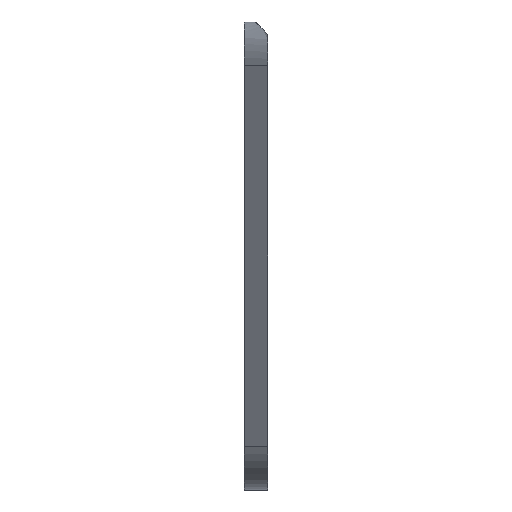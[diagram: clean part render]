
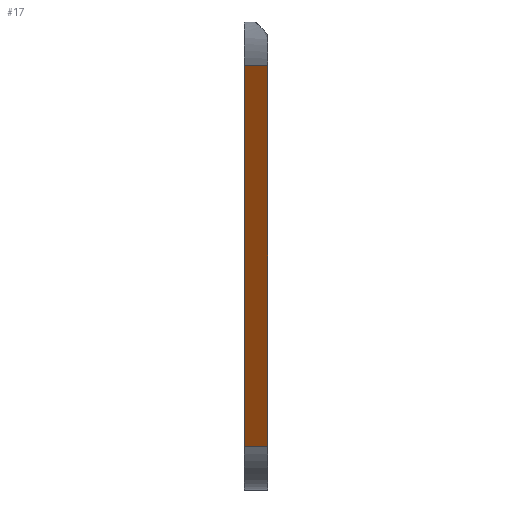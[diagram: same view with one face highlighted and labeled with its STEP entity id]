
A CAD part, front view. The second image highlights one B-rep face of the part: STEP entity #17.
In plain terms, the highlighted planar face has unit normal (-0.673, -0.74, 0).
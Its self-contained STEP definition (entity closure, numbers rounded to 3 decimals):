
#17 = ADVANCED_FACE('',(#18),#32,.T.);
#18 = FACE_BOUND('',#19,.T.);
#19 = EDGE_LOOP('',(#20,#55,#95,#123));
#20 = ORIENTED_EDGE('',*,*,#21,.F.);
#21 = EDGE_CURVE('',#22,#24,#26,.T.);
#22 = VERTEX_POINT('',#23);
#23 = CARTESIAN_POINT('',(129.688,45.5,44.5));
#24 = VERTEX_POINT('',#25);
#25 = CARTESIAN_POINT('',(129.688,45.5,70.7));
#26 = SURFACE_CURVE('',#27,(#31,#43),.PCURVE_S1.);
#27 = LINE('',#28,#29);
#28 = CARTESIAN_POINT('',(129.688,45.5,41.5));
#29 = VECTOR('',#30,1.);
#30 = DIRECTION('',(0.,0.,1.));
#31 = PCURVE('',#32,#37);
#32 = PLANE('',#33);
#33 = AXIS2_PLACEMENT_3D('',#34,#35,#36);
#34 = CARTESIAN_POINT('',(131.338,44.,41.5));
#35 = DIRECTION('',(-0.673,-0.74,0.));
#36 = DIRECTION('',(-0.,0.,-1.));
#37 = DEFINITIONAL_REPRESENTATION('',(#38),#42);
#38 = LINE('',#39,#40);
#39 = CARTESIAN_POINT('',(0.,-2.23));
#40 = VECTOR('',#41,1.);
#41 = DIRECTION('',(-1.,0.));
#42 = ( GEOMETRIC_REPRESENTATION_CONTEXT(2) 
PARAMETRIC_REPRESENTATION_CONTEXT() REPRESENTATION_CONTEXT('2D SPACE',''
  ) );
#43 = PCURVE('',#44,#49);
#44 = PLANE('',#45);
#45 = AXIS2_PLACEMENT_3D('',#46,#47,#48);
#46 = CARTESIAN_POINT('',(129.688,45.5,44.5));
#47 = DIRECTION('',(-1.,0.,0.));
#48 = DIRECTION('',(0.,0.933,0.359));
#49 = DEFINITIONAL_REPRESENTATION('',(#50),#54);
#50 = LINE('',#51,#52);
#51 = CARTESIAN_POINT('',(-1.077,2.8));
#52 = VECTOR('',#53,1.);
#53 = DIRECTION('',(0.359,-0.933));
#54 = ( GEOMETRIC_REPRESENTATION_CONTEXT(2) 
PARAMETRIC_REPRESENTATION_CONTEXT() REPRESENTATION_CONTEXT('2D SPACE',''
  ) );
#55 = ORIENTED_EDGE('',*,*,#56,.T.);
#56 = EDGE_CURVE('',#22,#57,#59,.T.);
#57 = VERTEX_POINT('',#58);
#58 = CARTESIAN_POINT('',(131.338,44.,44.5));
#59 = SURFACE_CURVE('',#60,(#63,#69),.PCURVE_S1.);
#60 = B_SPLINE_CURVE_WITH_KNOTS('',1,(#61,#62),.UNSPECIFIED.,.F.,.F.,(2,
    2),(0.,1.),.PIECEWISE_BEZIER_KNOTS.);
#61 = CARTESIAN_POINT('',(129.688,45.5,44.5));
#62 = CARTESIAN_POINT('',(131.338,44.,44.5));
#63 = PCURVE('',#32,#64);
#64 = DEFINITIONAL_REPRESENTATION('',(#65),#68);
#65 = B_SPLINE_CURVE_WITH_KNOTS('',1,(#66,#67),.UNSPECIFIED.,.F.,.F.,(2,
    2),(0.,1.),.PIECEWISE_BEZIER_KNOTS.);
#66 = CARTESIAN_POINT('',(-3.,-2.23));
#67 = CARTESIAN_POINT('',(-3.,0.));
#68 = ( GEOMETRIC_REPRESENTATION_CONTEXT(2) 
PARAMETRIC_REPRESENTATION_CONTEXT() REPRESENTATION_CONTEXT('2D SPACE',''
  ) );
#69 = PCURVE('',#70,#89);
#70 = B_SPLINE_SURFACE_WITH_KNOTS('',8,1,(
    (#71,#72)
    ,(#73,#74)
    ,(#75,#76)
    ,(#77,#78)
    ,(#79,#80)
    ,(#81,#82)
    ,(#83,#84)
    ,(#85,#86)
    ,(#87,#88
    )),.UNSPECIFIED.,.F.,.F.,.F.,(9,9),(2,2),(1.571,
    3.142),(0.,1.),.PIECEWISE_BEZIER_KNOTS.);
#71 = CARTESIAN_POINT('',(129.688,45.5,44.5));
#72 = CARTESIAN_POINT('',(131.338,44.,44.5));
#73 = CARTESIAN_POINT('',(129.687,45.5,43.911));
#74 = CARTESIAN_POINT('',(131.337,44.,43.911));
#75 = CARTESIAN_POINT('',(129.688,45.632,43.322));
#76 = CARTESIAN_POINT('',(131.338,44.132,43.322));
#77 = CARTESIAN_POINT('',(129.687,45.897,
    42.767));
#78 = CARTESIAN_POINT('',(131.337,44.397,
    42.767));
#79 = CARTESIAN_POINT('',(129.688,46.282,42.282));
#80 = CARTESIAN_POINT('',(131.338,44.782,42.282));
#81 = CARTESIAN_POINT('',(129.687,46.767,
    41.897));
#82 = CARTESIAN_POINT('',(131.337,45.267,
    41.897));
#83 = CARTESIAN_POINT('',(129.688,47.322,41.632));
#84 = CARTESIAN_POINT('',(131.338,45.822,41.632));
#85 = CARTESIAN_POINT('',(129.687,47.911,41.5));
#86 = CARTESIAN_POINT('',(131.338,46.411,41.5));
#87 = CARTESIAN_POINT('',(129.688,48.5,41.5));
#88 = CARTESIAN_POINT('',(131.338,47.,41.5));
#89 = DEFINITIONAL_REPRESENTATION('',(#90),#94);
#90 = LINE('',#91,#92);
#91 = CARTESIAN_POINT('',(1.571,0.));
#92 = VECTOR('',#93,1.);
#93 = DIRECTION('',(0.,1.));
#94 = ( GEOMETRIC_REPRESENTATION_CONTEXT(2) 
PARAMETRIC_REPRESENTATION_CONTEXT() REPRESENTATION_CONTEXT('2D SPACE',''
  ) );
#95 = ORIENTED_EDGE('',*,*,#96,.T.);
#96 = EDGE_CURVE('',#57,#97,#99,.T.);
#97 = VERTEX_POINT('',#98);
#98 = CARTESIAN_POINT('',(131.338,44.,70.7));
#99 = SURFACE_CURVE('',#100,(#104,#111),.PCURVE_S1.);
#100 = LINE('',#101,#102);
#101 = CARTESIAN_POINT('',(131.338,44.,41.5));
#102 = VECTOR('',#103,1.);
#103 = DIRECTION('',(0.,0.,1.));
#104 = PCURVE('',#32,#105);
#105 = DEFINITIONAL_REPRESENTATION('',(#106),#110);
#106 = LINE('',#107,#108);
#107 = CARTESIAN_POINT('',(0.,0.));
#108 = VECTOR('',#109,1.);
#109 = DIRECTION('',(-1.,0.));
#110 = ( GEOMETRIC_REPRESENTATION_CONTEXT(2) 
PARAMETRIC_REPRESENTATION_CONTEXT() REPRESENTATION_CONTEXT('2D SPACE',''
  ) );
#111 = PCURVE('',#112,#117);
#112 = PLANE('',#113);
#113 = AXIS2_PLACEMENT_3D('',#114,#115,#116);
#114 = CARTESIAN_POINT('',(131.338,44.,44.5));
#115 = DIRECTION('',(-1.,0.,0.));
#116 = DIRECTION('',(0.,0.938,0.346));
#117 = DEFINITIONAL_REPRESENTATION('',(#118),#122);
#118 = LINE('',#119,#120);
#119 = CARTESIAN_POINT('',(-1.038,2.815));
#120 = VECTOR('',#121,1.);
#121 = DIRECTION('',(0.346,-0.938));
#122 = ( GEOMETRIC_REPRESENTATION_CONTEXT(2) 
PARAMETRIC_REPRESENTATION_CONTEXT() REPRESENTATION_CONTEXT('2D SPACE',''
  ) );
#123 = ORIENTED_EDGE('',*,*,#124,.F.);
#124 = EDGE_CURVE('',#24,#97,#125,.T.);
#125 = SURFACE_CURVE('',#126,(#129,#135),.PCURVE_S1.);
#126 = B_SPLINE_CURVE_WITH_KNOTS('',1,(#127,#128),.UNSPECIFIED.,.F.,.F.,
  (2,2),(0.,1.),.PIECEWISE_BEZIER_KNOTS.);
#127 = CARTESIAN_POINT('',(129.688,45.5,70.7));
#128 = CARTESIAN_POINT('',(131.338,44.,70.7));
#129 = PCURVE('',#32,#130);
#130 = DEFINITIONAL_REPRESENTATION('',(#131),#134);
#131 = B_SPLINE_CURVE_WITH_KNOTS('',1,(#132,#133),.UNSPECIFIED.,.F.,.F.,
  (2,2),(0.,1.),.PIECEWISE_BEZIER_KNOTS.);
#132 = CARTESIAN_POINT('',(-29.2,-2.23));
#133 = CARTESIAN_POINT('',(-29.2,0.));
#134 = ( GEOMETRIC_REPRESENTATION_CONTEXT(2) 
PARAMETRIC_REPRESENTATION_CONTEXT() REPRESENTATION_CONTEXT('2D SPACE',''
  ) );
#135 = PCURVE('',#136,#155);
#136 = B_SPLINE_SURFACE_WITH_KNOTS('',8,1,(
    (#137,#138)
    ,(#139,#140)
    ,(#141,#142)
    ,(#143,#144)
    ,(#145,#146)
    ,(#147,#148)
    ,(#149,#150)
    ,(#151,#152)
    ,(#153,#154
    )),.UNSPECIFIED.,.F.,.F.,.F.,(9,9),(2,2),(0.,1.571),(0.,1.)
  ,.PIECEWISE_BEZIER_KNOTS.);
#137 = CARTESIAN_POINT('',(129.688,48.5,73.7));
#138 = CARTESIAN_POINT('',(131.338,47.,73.7));
#139 = CARTESIAN_POINT('',(129.688,47.911,73.7));
#140 = CARTESIAN_POINT('',(131.338,46.411,73.7));
#141 = CARTESIAN_POINT('',(129.688,47.322,73.568));
#142 = CARTESIAN_POINT('',(131.338,45.822,73.568));
#143 = CARTESIAN_POINT('',(129.687,46.767,
    73.303));
#144 = CARTESIAN_POINT('',(131.337,45.267,
    73.303));
#145 = CARTESIAN_POINT('',(129.688,46.282,72.918));
#146 = CARTESIAN_POINT('',(131.338,44.782,72.918));
#147 = CARTESIAN_POINT('',(129.687,45.897,
    72.433));
#148 = CARTESIAN_POINT('',(131.337,44.397,
    72.433));
#149 = CARTESIAN_POINT('',(129.688,45.632,71.878));
#150 = CARTESIAN_POINT('',(131.338,44.132,71.878));
#151 = CARTESIAN_POINT('',(129.688,45.5,71.289));
#152 = CARTESIAN_POINT('',(131.338,44.,71.289));
#153 = CARTESIAN_POINT('',(129.688,45.5,70.7));
#154 = CARTESIAN_POINT('',(131.338,44.,70.7));
#155 = DEFINITIONAL_REPRESENTATION('',(#156),#160);
#156 = LINE('',#157,#158);
#157 = CARTESIAN_POINT('',(1.571,0.));
#158 = VECTOR('',#159,1.);
#159 = DIRECTION('',(0.,1.));
#160 = ( GEOMETRIC_REPRESENTATION_CONTEXT(2) 
PARAMETRIC_REPRESENTATION_CONTEXT() REPRESENTATION_CONTEXT('2D SPACE',''
  ) );
